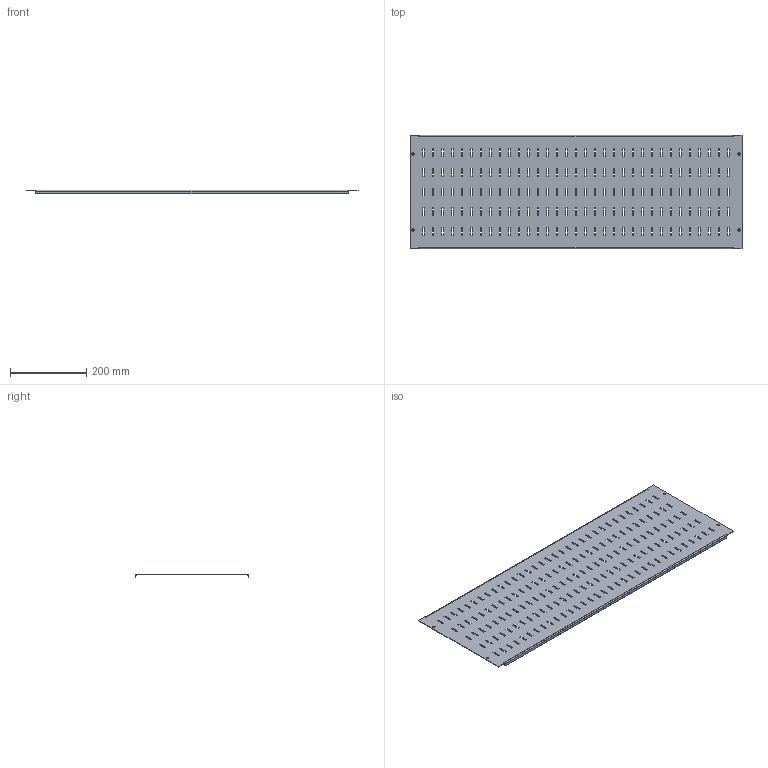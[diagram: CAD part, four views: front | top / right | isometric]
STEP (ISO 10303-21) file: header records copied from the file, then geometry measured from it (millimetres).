
FILE_DESCRIPTION(('STEP AP203'), '1');
FILE_NAME('Ïëàñòðîí ïåðôîðèðîâàííûé 300õ1000 ìì OptiBox M 419443 ÊÝÀÇ', '', ('UNSPECIFIED'), ('UNSPECIFIED'), 'C3D Converter', 'C3D Toolkit', '');
FILE_SCHEMA(('CONFIG_CONTROL_DESIGN'));
Length unit declared in the file: millimetre
Bounding box: 872 x 297 x 10 mm (x, y, z)
Volume: 361211.3 mm3; surface area: 530566.2 mm2
Topology: 1 solids, 1 shells, 698 faces, 2072 edges, 1376 vertices
Faces by surface type: plane 690, cylinder 8
Full cylindrical faces by diameter (mm): 6.3 x4
Entity records: 23560 total; most frequent: CARTESIAN_POINT 4143, ORIENTED_EDGE 4136, DIRECTION 3482, EDGE_CURVE 2068, LINE 2052, VECTOR 2052, VERTEX_POINT 1376, EDGE_LOOP 1040
